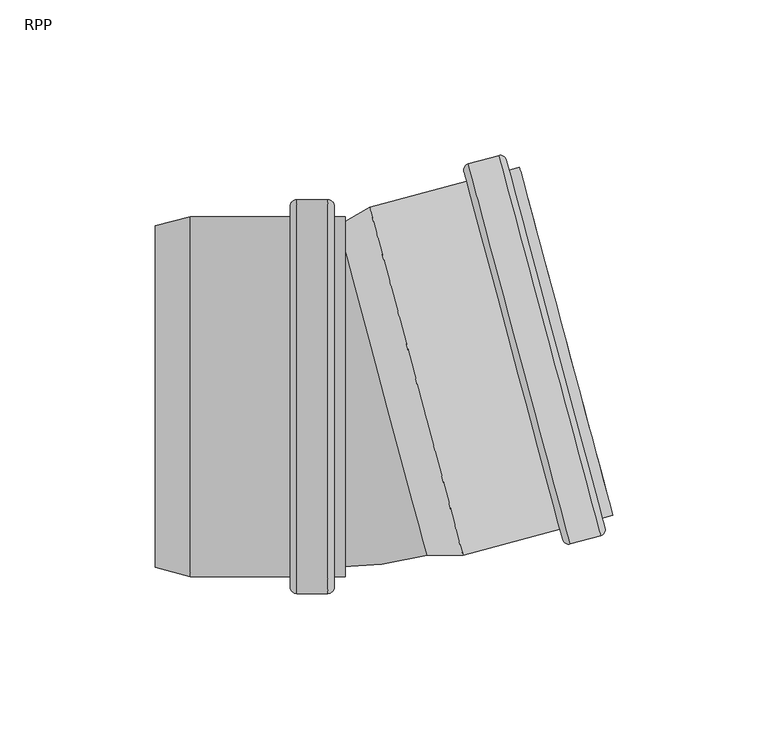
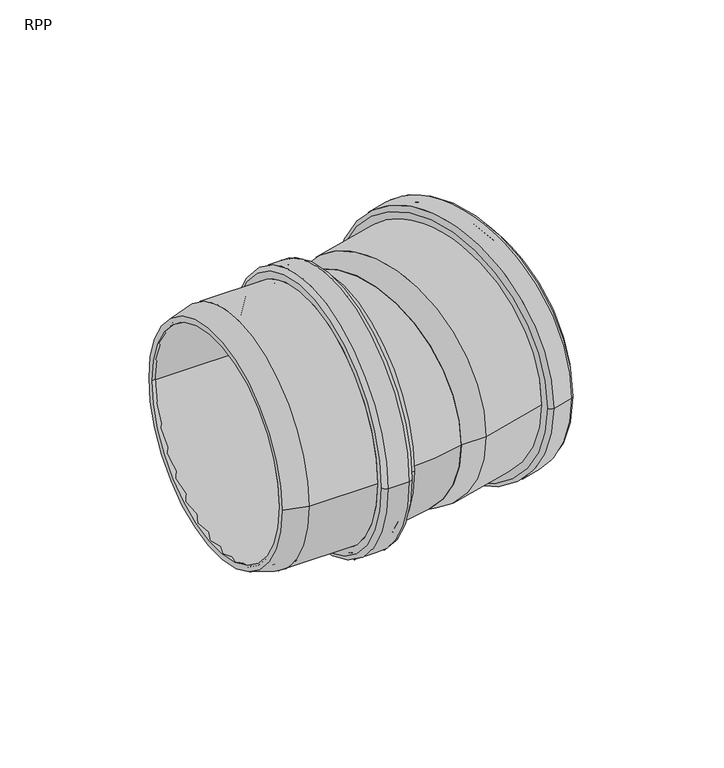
"""IFC4 building model written with IfcOpenShell, lengths in millimetres: pipe fitting geometry, RAUPIANO PLUS Bend : RPP."""

from ifc_helpers import new_model, si_unit, point, frame, origin, place, context, project, spatial, polyline, circle_curve, ellipse_curve, trimmed, source, transform, mapped, element, save
from ifc_brep_helpers import plane_surface, cylinder_surface, revolved_surface, advanced_brep


def rpp_c4f2875f(model_context):
    return source(origin(), model_context, "Body", "AdvancedBrep", [
        advanced_brep(
        [(-19.5674974, -55.3, 0.0), (-19.5674974, 55.3, 0.0), (-54.2158832, 55.3, 0.0), (-54.2158832, -55.3, 0.0), (-19.0674974, -60.7, 0.0), (-19.0674974, 60.7, 0.0), (-19.5674974, 60.2, 0.0), (-19.5674974, -60.2, 0.0), (-11.3674974, -60.7, 0.0), (-11.3674974, 60.7, 0.0), (-10.8674974, -60.2, 0.0), (-10.8674974, 60.2, 0.0), (-4.6674974, -55.3, 0.0), (-4.6674974, 55.3, 0.0), (-10.8674974, 55.3, 0.0), (-10.8674974, -55.3, 0.0), (-8.1674974, -58.0, 0.0), (-8.1674974, 58.0, 0.0), (-4.6674974, 58.0, 0.0), (-4.6674974, -58.0, 0.0), (-10.1674974, -63.4, 0.0), (-10.1674974, 63.4, 0.0), (-8.1674974, 61.4, 0.0), (-8.1674974, -61.4, 0.0), (-20.2674974, -63.4, 0.0), (-20.2674974, 63.4, 0.0), (-22.2674974, -61.4, 0.0), (-22.2674974, 61.4, 0.0), (-54.5713449, -58.0, 0.0), (-54.5713449, 58.0, 0.0), (-22.2674974, 58.0, 0.0), (-22.2674974, -58.0, 0.0), (-65.7674974, -55.0, 0.0), (-65.7674974, 55.0, 0.0), (-65.7674974, 52.2047543, 0.0), (-65.7674974, -52.2047543, 0.0)],
        [
            (0, 1, circle_curve(frame((-19.5674974, 0.0, 0.0), z_axis=(1.0, 0.0, 0.0), x_axis=(0.0, 1.0, 0.0)), 55.3)),
            (1, 2),
            (2, 3, circle_curve(frame((-54.2158832, 0.0, 0.0), z_axis=(-1.0, 0.0, 0.0), x_axis=(0.0, 1.0, 0.0)), 55.3)),
            (3, 0),
            (4, 5, circle_curve(frame((-19.0674974, 0.0, 0.0), z_axis=(1.0, 0.0, 0.0), x_axis=(0.0, 1.0, 0.0)), 60.7)),
            (5, 6, circle_curve(frame((-19.0674974, 60.2, 0.0), z_axis=(0.0, 0.0, 1.0), x_axis=(0.0, -1.0, 0.0)), 0.5)),
            (6, 7, circle_curve(frame((-19.5674974, 0.0, 0.0), z_axis=(-1.0, 0.0, 0.0), x_axis=(0.0, 1.0, 0.0)), 60.2)),
            (7, 4, circle_curve(frame((-19.0674974, -60.2, 0.0), z_axis=(0.0, 0.0, 1.0), x_axis=(0.0, 1.0, 0.0)), 0.5)),
            (8, 9, circle_curve(frame((-11.3674974, 0.0, 0.0), z_axis=(1.0, 0.0, 0.0), x_axis=(0.0, 1.0, 0.0)), 60.7)),
            (9, 5),
            (4, 8),
            (10, 11, circle_curve(frame((-10.8674974, 0.0, 0.0), z_axis=(1.0, 0.0, 0.0), x_axis=(0.0, 1.0, 0.0)), 60.2)),
            (11, 9, circle_curve(frame((-11.3674974, 60.2, 0.0), z_axis=(0.0, 0.0, 1.0), x_axis=(0.0, -1.0, 0.0)), 0.5)),
            (8, 10, circle_curve(frame((-11.3674974, -60.2, 0.0), z_axis=(0.0, 0.0, 1.0), x_axis=(0.0, 1.0, 0.0)), 0.5)),
            (12, 13, circle_curve(frame((-4.6674974, 0.0, 0.0), z_axis=(1.0, 0.0, 0.0), x_axis=(0.0, 1.0, 0.0)), 55.3)),
            (13, 14),
            (14, 15, circle_curve(frame((-10.8674974, 0.0, 0.0), z_axis=(-1.0, 0.0, 0.0), x_axis=(0.0, 1.0, 0.0)), 55.3)),
            (15, 12),
            (16, 17, circle_curve(frame((-8.1674974, 0.0, 0.0), z_axis=(1.0, 0.0, 0.0), x_axis=(0.0, 1.0, 0.0)), 58.0)),
            (17, 18),
            (18, 19, circle_curve(frame((-4.6674974, 0.0, 0.0), z_axis=(-1.0, 0.0, 0.0), x_axis=(0.0, 1.0, 0.0)), 58.0)),
            (19, 16),
            (20, 21, circle_curve(frame((-10.1674974, 0.0, 0.0), z_axis=(1.0, 0.0, 0.0), x_axis=(0.0, 1.0, 0.0)), 63.4)),
            (21, 22, circle_curve(frame((-10.1674974, 61.4, 0.0), z_axis=(0.0, 0.0, -1.0), x_axis=(0.0, -1.0, 0.0)), 2.0)),
            (22, 23, circle_curve(frame((-8.1674974, 0.0, 0.0), z_axis=(-1.0, 0.0, 0.0), x_axis=(0.0, 1.0, 0.0)), 61.4)),
            (23, 20, circle_curve(frame((-10.1674974, -61.4, 0.0), z_axis=(0.0, 0.0, -1.0), x_axis=(0.0, 1.0, 0.0)), 2.0)),
            (24, 25, circle_curve(frame((-20.2674974, 0.0, 0.0), z_axis=(1.0, 0.0, 0.0), x_axis=(0.0, 1.0, 0.0)), 63.4)),
            (25, 21),
            (20, 24),
            (26, 27, circle_curve(frame((-22.2674974, 0.0, 0.0), z_axis=(1.0, 0.0, 0.0), x_axis=(0.0, 1.0, 0.0)), 61.4)),
            (27, 25, circle_curve(frame((-20.2674974, 61.4, 0.0), z_axis=(0.0, 0.0, -1.0), x_axis=(0.0, -1.0, 0.0)), 2.0)),
            (24, 26, circle_curve(frame((-20.2674974, -61.4, 0.0), z_axis=(0.0, 0.0, -1.0), x_axis=(0.0, 1.0, 0.0)), 2.0)),
            (28, 29, circle_curve(frame((-54.5713449, 0.0, 0.0), z_axis=(1.0, 0.0, 0.0), x_axis=(0.0, 1.0, 0.0)), 58.0)),
            (29, 30),
            (30, 31, circle_curve(frame((-22.2674974, 0.0, 0.0), z_axis=(-1.0, 0.0, 0.0), x_axis=(0.0, 1.0, 0.0)), 58.0)),
            (31, 28),
            (32, 33, circle_curve(frame((-65.7674974, 0.0, 0.0), z_axis=(1.0, 0.0, 0.0), x_axis=(0.0, 1.0, 0.0)), 55.0)),
            (33, 29),
            (28, 32),
            (2, 34),
            (34, 35, circle_curve(frame((-65.7674974, 0.0, 0.0), z_axis=(-1.0, 0.0, 0.0), x_axis=(0.0, 1.0, 0.0)), 52.2047543)),
            (35, 3),
            (1, 0, circle_curve(frame((-19.5674974, 0.0, 0.0), z_axis=(1.0, 0.0, 0.0), x_axis=(0.0, -1.0, 0.0)), 55.3)),
            (3, 2, circle_curve(frame((-54.2158832, 0.0, 0.0), z_axis=(-1.0, 0.0, 0.0), x_axis=(0.0, -1.0, 0.0)), 55.3)),
            (6, 7, circle_curve(frame((-19.5674974, 0.0, 0.0), z_axis=(1.0, 0.0, 0.0), x_axis=(0.0, -1.0, 0.0)), 60.2)),
            (5, 4, circle_curve(frame((-19.0674974, 0.0, 0.0), z_axis=(1.0, 0.0, 0.0), x_axis=(0.0, -1.0, 0.0)), 60.7)),
            (9, 8, circle_curve(frame((-11.3674974, 0.0, 0.0), z_axis=(1.0, 0.0, 0.0), x_axis=(0.0, -1.0, 0.0)), 60.7)),
            (11, 10, circle_curve(frame((-10.8674974, 0.0, 0.0), z_axis=(1.0, 0.0, 0.0), x_axis=(0.0, -1.0, 0.0)), 60.2)),
            (14, 15, circle_curve(frame((-10.8674974, 0.0, 0.0), z_axis=(1.0, 0.0, 0.0), x_axis=(0.0, -1.0, 0.0)), 55.3)),
            (13, 12, circle_curve(frame((-4.6674974, 0.0, 0.0), z_axis=(1.0, 0.0, 0.0), x_axis=(0.0, -1.0, 0.0)), 55.3)),
            (18, 19, circle_curve(frame((-4.6674974, 0.0, 0.0), z_axis=(1.0, 0.0, 0.0), x_axis=(0.0, -1.0, 0.0)), 58.0)),
            (17, 16, circle_curve(frame((-8.1674974, 0.0, 0.0), z_axis=(1.0, 0.0, 0.0), x_axis=(0.0, -1.0, 0.0)), 58.0)),
            (22, 23, circle_curve(frame((-8.1674974, 0.0, 0.0), z_axis=(1.0, 0.0, 0.0), x_axis=(0.0, -1.0, 0.0)), 61.4)),
            (21, 20, circle_curve(frame((-10.1674974, 0.0, 0.0), z_axis=(1.0, 0.0, 0.0), x_axis=(0.0, -1.0, 0.0)), 63.4)),
            (25, 24, circle_curve(frame((-20.2674974, 0.0, 0.0), z_axis=(1.0, 0.0, 0.0), x_axis=(0.0, -1.0, 0.0)), 63.4)),
            (27, 26, circle_curve(frame((-22.2674974, 0.0, 0.0), z_axis=(1.0, 0.0, 0.0), x_axis=(0.0, -1.0, 0.0)), 61.4)),
            (30, 31, circle_curve(frame((-22.2674974, 0.0, 0.0), z_axis=(1.0, 0.0, 0.0), x_axis=(0.0, -1.0, 0.0)), 58.0)),
            (29, 28, circle_curve(frame((-54.5713449, 0.0, 0.0), z_axis=(1.0, 0.0, 0.0), x_axis=(0.0, -1.0, 0.0)), 58.0)),
            (33, 32, circle_curve(frame((-65.7674974, 0.0, 0.0), z_axis=(1.0, 0.0, 0.0), x_axis=(0.0, -1.0, 0.0)), 55.0)),
            (34, 35, circle_curve(frame((-65.7674974, 0.0, 0.0), z_axis=(1.0, 0.0, 0.0), x_axis=(0.0, -1.0, 0.0)), 52.2047543)),
        ],
        [
            revolved_surface(polyline([(-54.2158832, 55.3, 0.0), (-19.5674974, 55.3, 0.0)]), (-65.7674974, 0.0, 0.0), (-1.0, 0.0, 0.0)),
            revolved_surface(trimmed(ellipse_curve(frame((-19.0674974, 60.2, 0.0), z_axis=(0.0, 0.0, -1.0), x_axis=(0.0, -1.0, 0.0)), 0.5, 0.5), [point((-19.5674974, 60.2, 0.0))], [point((-19.0674974, 60.7, 0.0))], True, "CARTESIAN"), (-65.7674974, 0.0, 0.0), (-1.0, 0.0, 0.0)),
            revolved_surface(polyline([(-19.0674974, 60.7, 0.0), (-11.367497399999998, 60.7, 0.0)]), (-65.7674974, 0.0, 0.0), (-1.0, 0.0, 0.0)),
            revolved_surface(trimmed(ellipse_curve(frame((-11.3674974, 60.2, 0.0), z_axis=(0.0, 0.0, -1.0), x_axis=(0.0, -1.0, 0.0)), 0.5, 0.5), [point((-11.3674974, 60.7, 0.0))], [point((-10.8674974, 60.2, 0.0))], True, "CARTESIAN"), (-65.7674974, 0.0, 0.0), (-1.0, 0.0, 0.0)),
            revolved_surface(polyline([(-10.867497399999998, 55.3, 0.0), (-4.667497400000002, 55.3, 0.0)]), (-65.7674974, 0.0, 0.0), (-1.0, 0.0, 0.0)),
            cylinder_surface(frame((-65.7674974, 0.0, 0.0), z_axis=(-1.0, 0.0, 0.0), x_axis=(0.0, 1.0, 0.0)), 58.0),
            revolved_surface(trimmed(ellipse_curve(frame((-10.1674974, 61.4, 0.0), z_axis=(0.0, 0.0, 1.0), x_axis=(0.0, -1.0, 0.0)), 2.0, 2.0), [point((-8.1674974, 61.4, 0.0))], [point((-10.1674974, 63.4, 0.0))], True, "CARTESIAN"), (-65.7674974, 0.0, 0.0), (-1.0, 0.0, 0.0)),
            cylinder_surface(frame((-65.7674974, 0.0, 0.0), z_axis=(-1.0, 0.0, 0.0), x_axis=(0.0, 1.0, 0.0)), 63.4),
            revolved_surface(trimmed(ellipse_curve(frame((-20.2674974, 61.4, 0.0), z_axis=(0.0, 0.0, 1.0), x_axis=(0.0, -1.0, 0.0)), 2.0, 2.0), [point((-20.2674974, 63.4, 0.0))], [point((-22.2674974, 61.4, 0.0))], True, "CARTESIAN"), (-65.7674974, 0.0, 0.0), (-1.0, 0.0, 0.0)),
            revolved_surface(polyline([(-54.5713449, 58.0, 0.0), (-65.7674974, 55.0, 0.0)]), (-65.7674974, 0.0, 0.0), (-1.0, 0.0, 0.0)),
            revolved_surface(polyline([(-65.7674974, 52.2047543, 0.0), (-54.2158832, 55.3, 0.0)]), (-65.7674974, 0.0, 0.0), (-1.0, 0.0, 0.0)),
            revolved_surface(polyline([(-54.2158832, -55.3, 0.0), (-19.5674974, -55.3, 0.0)]), (-65.7674974, 0.0, 0.0), (-1.0, 0.0, 0.0)),
            plane_surface(frame((-19.5674974, 0.0, 0.0), z_axis=(1.0, 0.0, 0.0), x_axis=(0.0, -1.0, 0.0))),
            revolved_surface(trimmed(ellipse_curve(frame((-19.0674974, -60.2, 0.0), z_axis=(0.0, 0.0, 1.0), x_axis=(0.0, 1.0, 0.0)), 0.5, 0.5), [point((-19.5674974, -60.2, 0.0))], [point((-19.0674974, -60.7, 0.0))], True, "CARTESIAN"), (-65.7674974, 0.0, 0.0), (-1.0, 0.0, 0.0)),
            revolved_surface(polyline([(-19.0674974, -60.7, 0.0), (-11.367497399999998, -60.7, 0.0)]), (-65.7674974, 0.0, 0.0), (-1.0, 0.0, 0.0)),
            revolved_surface(trimmed(ellipse_curve(frame((-11.3674974, -60.2, 0.0), z_axis=(0.0, 0.0, 1.0), x_axis=(0.0, 1.0, 0.0)), 0.5, 0.5), [point((-11.3674974, -60.7, 0.0))], [point((-10.8674974, -60.2, 0.0))], True, "CARTESIAN"), (-65.7674974, 0.0, 0.0), (-1.0, 0.0, 0.0)),
            plane_surface(frame((-10.8674974, 0.0, 0.0), z_axis=(-1.0, 0.0, 0.0), x_axis=(0.0, -1.0, 0.0))),
            revolved_surface(polyline([(-10.867497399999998, -55.3, 0.0), (-4.667497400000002, -55.3, 0.0)]), (-65.7674974, 0.0, 0.0), (-1.0, 0.0, 0.0)),
            plane_surface(frame((-4.6674974, 0.0, 0.0), z_axis=(1.0, 0.0, 0.0), x_axis=(0.0, -1.0, 0.0))),
            cylinder_surface(frame((-65.7674974, 0.0, 0.0), z_axis=(-1.0, 0.0, 0.0), x_axis=(0.0, -1.0, 0.0)), 58.0),
            plane_surface(frame((-8.1674974, 0.0, 0.0), z_axis=(1.0, 0.0, 0.0), x_axis=(0.0, -1.0, 0.0))),
            revolved_surface(trimmed(ellipse_curve(frame((-10.1674974, -61.4, 0.0), z_axis=(0.0, 0.0, -1.0), x_axis=(0.0, 1.0, 0.0)), 2.0, 2.0), [point((-8.1674974, -61.4, 0.0))], [point((-10.1674974, -63.4, 0.0))], True, "CARTESIAN"), (-65.7674974, 0.0, 0.0), (-1.0, 0.0, 0.0)),
            cylinder_surface(frame((-65.7674974, 0.0, 0.0), z_axis=(-1.0, 0.0, 0.0), x_axis=(0.0, -1.0, 0.0)), 63.4),
            revolved_surface(trimmed(ellipse_curve(frame((-20.2674974, -61.4, 0.0), z_axis=(0.0, 0.0, -1.0), x_axis=(0.0, 1.0, 0.0)), 2.0, 2.0), [point((-20.2674974, -63.4, 0.0))], [point((-22.2674974, -61.4, 0.0))], True, "CARTESIAN"), (-65.7674974, 0.0, 0.0), (-1.0, 0.0, 0.0)),
            plane_surface(frame((-22.2674974, 0.0, 0.0), z_axis=(-1.0, 0.0, 0.0), x_axis=(0.0, -1.0, 0.0))),
            revolved_surface(polyline([(-54.5713449, -58.0, 0.0), (-65.7674974, -55.0, 0.0)]), (-65.7674974, 0.0, 0.0), (-1.0, 0.0, 0.0)),
            plane_surface(frame((-65.7674974, 0.0, 0.0), z_axis=(-1.0, 0.0, 0.0), x_axis=(0.0, -1.0, 0.0))),
            revolved_surface(polyline([(-65.7674974, -52.2047543, 0.0), (-54.2158832, -55.3, 0.0)]), (-65.7674974, 0.0, 0.0), (-1.0, 0.0, 0.0)),
        ],
        [
            (0, [[1, 2, 3, 4]]),
            (1, [[5, 6, 7, 8]]),
            (2, [[9, 10, -5, 11]]),
            (3, [[12, 13, -9, 14]]),
            (4, [[15, 16, 17, 18]]),
            (5, [[19, 20, 21, 22]]),
            (6, [[23, 24, 25, 26]]),
            (7, [[27, 28, -23, 29]]),
            (8, [[30, 31, -27, 32]]),
            (5, [[33, 34, 35, 36]]),
            (9, [[37, 38, -33, 39]]),
            (10, [[-3, 40, 41, 42]]),
            (11, [[43, -4, 44, -2]]),
            (12, [[45, -7], [-43, -1]]),
            (13, [[46, -8, -45, -6]]),
            (14, [[47, -11, -46, -10]]),
            (15, [[48, -14, -47, -13]]),
            (16, [[-48, -12], [49, -17]]),
            (17, [[50, -18, -49, -16]]),
            (18, [[51, -21], [-50, -15]]),
            (19, [[52, -22, -51, -20]]),
            (20, [[53, -25], [-52, -19]]),
            (21, [[54, -26, -53, -24]]),
            (22, [[55, -29, -54, -28]]),
            (23, [[56, -32, -55, -31]]),
            (24, [[-56, -30], [57, -35]]),
            (19, [[58, -36, -57, -34]]),
            (25, [[59, -39, -58, -38]]),
            (26, [[-59, -37], [60, -41]]),
            (27, [[-44, -42, -60, -40]]),
        ],
    ),
        advanced_brep(
        [(21.014411, -48.4155442, 0.0), (-6.0087584, 52.4362967, 0.0), (4.3481356, 58.4158522, 0.0), (32.973522, -48.4155442, 0.0), (33.3289837, -51.1155442, 0.0), (3.3059745, 60.9318517, 0.0), (-6.7322212, 55.1362967, 0.0), (21.7378738, -51.1155442, 0.0), (64.5321044, -42.7546932, 0.0), (34.5090951, 69.2927026, 0.0), (77.6174297, -44.8389822, 0.0), (44.7991748, 77.6404125, 0.0), (35.0433239, 75.0263402, 0.0), (67.8615789, -47.4530546, 0.0), (81.5323989, -38.199478, 0.0), (51.5093897, 73.8479178, 0.0), (48.1286493, 72.9420512, 0.0), (78.1516585, -39.1053447, 0.0), (74.8448474, -37.1961564, 0.0), (46.219461, 69.63524, 0.0), (52.2082011, 71.2399181, 0.0), (80.8335875, -35.5914783, 0.0), (68.3218784, -44.534472, 0.0), (36.9012464, 72.7289233, 0.0), (44.3388752, 74.72183, 0.0), (75.7595073, -42.5415654, 0.0), (37.8159063, 67.3835143, 0.0), (66.4412927, -39.4478821, 0.0), (33.6291104, 72.5768504, 0.0), (65.4120891, -46.038841, 0.0), (79.0316433, -42.3894925, 0.0), (47.2486645, 76.226199, 0.0), (44.9512477, 74.3682766, 0.0), (76.1130607, -41.9291929, 0.0), (67.709506, -44.1809186, 0.0), (36.547693, 72.1165509, 0.0)],
        [
            (0, 1, circle_curve(frame((7.5028263, 2.0103762, 0.0), z_axis=(-0.9659258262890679, -0.25881904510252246, 0.0), x_axis=(-0.25881904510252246, 0.9659258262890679, 0.0)), 52.2047543)),
            (1, 2),
            (2, 3, circle_curve(frame((18.6608288, 5.000154, 0.0), z_axis=(0.9659258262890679, 0.25881904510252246, 0.0), x_axis=(-0.25881904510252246, 0.9659258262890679, 0.0)), 55.3)),
            (3, 0),
            (4, 5, circle_curve(frame((18.3174791, 4.9081537, 0.0), z_axis=(-0.9659258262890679, -0.25881904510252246, 0.0), x_axis=(-0.25881904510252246, 0.9659258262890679, 0.0)), 58.0)),
            (5, 6),
            (6, 7, circle_curve(frame((7.5028263, 2.0103762, 0.0), z_axis=(0.9659258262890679, 0.25881904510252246, 0.0), x_axis=(-0.25881904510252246, 0.9659258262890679, 0.0)), 55.0)),
            (7, 4),
            (8, 9, circle_curve(frame((49.5205997, 13.2690047, 0.0), z_axis=(-0.9659258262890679, -0.25881904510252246, 0.0), x_axis=(-0.25881904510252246, 0.9659258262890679, 0.0)), 58.0)),
            (9, 5),
            (4, 8),
            (10, 11, circle_curve(frame((61.2083022, 16.4007152, 0.0), z_axis=(-0.9659258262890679, -0.25881904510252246, 0.0), x_axis=(-0.25881904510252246, 0.9659258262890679, 0.0)), 63.4)),
            (11, 12),
            (12, 13, circle_curve(frame((51.4524514, 13.7866428, 0.0), z_axis=(0.9659258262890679, 0.25881904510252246, 0.0), x_axis=(-0.25881904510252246, 0.9659258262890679, 0.0)), 63.4)),
            (13, 10),
            (14, 15, circle_curve(frame((66.5208943, 17.8242199, 0.0), z_axis=(-0.9659258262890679, -0.25881904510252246, 0.0), x_axis=(-0.25881904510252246, 0.9659258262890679, 0.0)), 58.0)),
            (15, 16),
            (16, 17, circle_curve(frame((63.1401539, 16.9183532, 0.0), z_axis=(0.9659258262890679, 0.25881904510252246, 0.0), x_axis=(-0.25881904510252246, 0.9659258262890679, 0.0)), 58.0)),
            (17, 14),
            (18, 19, circle_curve(frame((60.5321542, 16.2195418, 0.0), z_axis=(-0.9659258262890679, -0.25881904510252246, 0.0), x_axis=(-0.25881904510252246, 0.9659258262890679, 0.0)), 55.3)),
            (19, 20),
            (20, 21, circle_curve(frame((66.5208943, 17.8242199, 0.0), z_axis=(0.9659258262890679, 0.25881904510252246, 0.0), x_axis=(-0.25881904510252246, 0.9659258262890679, 0.0)), 55.3)),
            (21, 18),
            (22, 23, circle_curve(frame((52.6115624, 14.0972257, 0.0), z_axis=(-0.9659258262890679, -0.25881904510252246, 0.0), x_axis=(-0.25881904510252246, 0.9659258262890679, 0.0)), 60.7)),
            (23, 24),
            (24, 25, circle_curve(frame((60.0491913, 16.0901323, 0.0), z_axis=(0.9659258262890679, 0.25881904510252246, 0.0), x_axis=(-0.25881904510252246, 0.9659258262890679, 0.0)), 60.7)),
            (25, 22),
            (2, 26),
            (26, 27, circle_curve(frame((52.1285995, 13.9678161, 0.0), z_axis=(0.9659258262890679, 0.25881904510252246, 0.0), x_axis=(-0.25881904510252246, 0.9659258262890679, 0.0)), 55.3)),
            (27, 3),
            (1, 0, circle_curve(frame((7.5028263, 2.0103762, 0.0), z_axis=(-0.9659258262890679, -0.25881904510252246, 0.0), x_axis=(0.25881904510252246, -0.9659258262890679, 0.0)), 52.2047543)),
            (3, 2, circle_curve(frame((18.6608288, 5.000154, 0.0), z_axis=(0.9659258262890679, 0.25881904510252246, 0.0), x_axis=(0.25881904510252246, -0.9659258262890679, 0.0)), 55.3)),
            (6, 7, circle_curve(frame((7.5028263, 2.0103762, 0.0), z_axis=(-0.9659258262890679, -0.25881904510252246, 0.0), x_axis=(0.25881904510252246, -0.9659258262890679, 0.0)), 55.0)),
            (5, 4, circle_curve(frame((18.3174791, 4.9081537, 0.0), z_axis=(-0.9659258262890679, -0.25881904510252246, 0.0), x_axis=(0.25881904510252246, -0.9659258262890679, 0.0)), 58.0)),
            (9, 8, circle_curve(frame((49.5205997, 13.2690047, 0.0), z_axis=(-0.9659258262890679, -0.25881904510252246, 0.0), x_axis=(0.25881904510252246, -0.9659258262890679, 0.0)), 58.0)),
            (28, 29, circle_curve(frame((49.5205997, 13.2690047, 0.0), z_axis=(-0.9659258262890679, -0.25881904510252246, 0.0), x_axis=(0.25881904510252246, -0.9659258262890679, 0.0)), 61.4)),
            (29, 28, circle_curve(frame((49.5205997, 13.2690047, 0.0), z_axis=(-0.9659258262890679, -0.25881904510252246, 0.0), x_axis=(-0.25881904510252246, 0.9659258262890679, 0.0)), 61.4)),
            (11, 10, circle_curve(frame((61.2083022, 16.4007152, 0.0), z_axis=(-0.9659258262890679, -0.25881904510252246, 0.0), x_axis=(0.25881904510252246, -0.9659258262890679, 0.0)), 63.4)),
            (13, 12, circle_curve(frame((51.4524514, 13.7866428, 0.0), z_axis=(0.9659258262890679, 0.25881904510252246, 0.0), x_axis=(0.25881904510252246, -0.9659258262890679, 0.0)), 63.4)),
            (30, 31, circle_curve(frame((63.1401539, 16.9183532, 0.0), z_axis=(0.9659258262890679, 0.25881904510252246, 0.0), x_axis=(0.25881904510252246, -0.9659258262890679, 0.0)), 61.4)),
            (31, 30, circle_curve(frame((63.1401539, 16.9183532, 0.0), z_axis=(0.9659258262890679, 0.25881904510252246, 0.0), x_axis=(-0.25881904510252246, 0.9659258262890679, 0.0)), 61.4)),
            (16, 17, circle_curve(frame((63.1401539, 16.9183532, 0.0), z_axis=(-0.9659258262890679, -0.25881904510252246, 0.0), x_axis=(0.25881904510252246, -0.9659258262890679, 0.0)), 58.0)),
            (15, 14, circle_curve(frame((66.5208943, 17.8242199, 0.0), z_axis=(-0.9659258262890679, -0.25881904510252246, 0.0), x_axis=(0.25881904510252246, -0.9659258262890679, 0.0)), 58.0)),
            (20, 21, circle_curve(frame((66.5208943, 17.8242199, 0.0), z_axis=(-0.9659258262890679, -0.25881904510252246, 0.0), x_axis=(0.25881904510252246, -0.9659258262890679, 0.0)), 55.3)),
            (19, 18, circle_curve(frame((60.5321542, 16.2195418, 0.0), z_axis=(-0.9659258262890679, -0.25881904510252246, 0.0), x_axis=(0.25881904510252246, -0.9659258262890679, 0.0)), 55.3)),
            (32, 33, circle_curve(frame((60.5321542, 16.2195418, 0.0), z_axis=(-0.9659258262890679, -0.25881904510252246, 0.0), x_axis=(0.25881904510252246, -0.9659258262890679, 0.0)), 60.2)),
            (33, 32, circle_curve(frame((60.5321542, 16.2195418, 0.0), z_axis=(-0.9659258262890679, -0.25881904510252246, 0.0), x_axis=(-0.25881904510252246, 0.9659258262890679, 0.0)), 60.2)),
            (23, 22, circle_curve(frame((52.6115624, 14.0972257, 0.0), z_axis=(-0.9659258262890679, -0.25881904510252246, 0.0), x_axis=(0.25881904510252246, -0.9659258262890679, 0.0)), 60.7)),
            (25, 24, circle_curve(frame((60.0491913, 16.0901323, 0.0), z_axis=(0.9659258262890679, 0.25881904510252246, 0.0), x_axis=(0.25881904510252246, -0.9659258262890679, 0.0)), 60.7)),
            (34, 35, circle_curve(frame((52.1285995, 13.9678161, 0.0), z_axis=(0.9659258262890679, 0.25881904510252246, 0.0), x_axis=(0.25881904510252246, -0.9659258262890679, 0.0)), 60.2)),
            (35, 34, circle_curve(frame((52.1285995, 13.9678161, 0.0), z_axis=(0.9659258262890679, 0.25881904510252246, 0.0), x_axis=(-0.25881904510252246, 0.9659258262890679, 0.0)), 60.2)),
            (26, 27, circle_curve(frame((52.1285995, 13.9678161, 0.0), z_axis=(-0.9659258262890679, -0.25881904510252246, 0.0), x_axis=(0.25881904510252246, -0.9659258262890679, 0.0)), 55.3)),
            (12, 28, circle_curve(frame((35.560962, 73.0944885, 0.0), z_axis=(0.0, 0.0, 1.0), x_axis=(0.25881904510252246, -0.9659258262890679, 0.0)), 2.0)),
            (29, 13, circle_curve(frame((67.3439408, -45.5212029, 0.0), z_axis=(0.0, 0.0, 1.0), x_axis=(-0.25881904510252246, 0.9659258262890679, 0.0)), 2.0)),
            (31, 11, circle_curve(frame((45.3168129, 75.7085609, 0.0), z_axis=(0.0, 0.0, 1.0), x_axis=(0.25881904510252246, -0.9659258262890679, 0.0)), 2.0)),
            (10, 30, circle_curve(frame((77.0997916, -42.9071306, 0.0), z_axis=(0.0, 0.0, 1.0), x_axis=(-0.25881904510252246, 0.9659258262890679, 0.0)), 2.0)),
            (24, 32, circle_curve(frame((44.4682847, 74.238867, 0.0), z_axis=(0.0, 0.0, -1.0), x_axis=(0.25881904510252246, -0.9659258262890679, 0.0)), 0.5)),
            (33, 25, circle_curve(frame((75.6300978, -42.0586024, 0.0), z_axis=(0.0, 0.0, -1.0), x_axis=(-0.25881904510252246, 0.9659258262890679, 0.0)), 0.5)),
            (35, 23, circle_curve(frame((37.0306559, 72.2459604, 0.0), z_axis=(0.0, 0.0, -1.0), x_axis=(0.25881904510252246, -0.9659258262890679, 0.0)), 0.5)),
            (22, 34, circle_curve(frame((68.1924689, -44.0515091, 0.0), z_axis=(0.0, 0.0, -1.0), x_axis=(-0.25881904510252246, 0.9659258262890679, 0.0)), 0.5)),
        ],
        [
            revolved_surface(polyline([(4.3481356, 58.4158522, 0.0), (-6.0087584, 52.4362967, 0.0)]), (7.5028263, 2.0103762, 0.0), (0.9659258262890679, 0.25881904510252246, 0.0)),
            revolved_surface(polyline([(-6.7322212, 55.1362967, 0.0), (3.3059745, 60.9318517, 0.0)]), (7.5028263, 2.0103762, 0.0), (0.9659258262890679, 0.25881904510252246, 0.0)),
            cylinder_surface(frame((7.5028263, 2.0103762, 0.0), z_axis=(0.9659258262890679, 0.25881904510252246, 0.0), x_axis=(-0.25881904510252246, 0.9659258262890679, 0.0)), 58.0),
            cylinder_surface(frame((7.5028263, 2.0103762, 0.0), z_axis=(0.9659258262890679, 0.25881904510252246, 0.0), x_axis=(-0.25881904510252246, 0.9659258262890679, 0.0)), 63.4),
            revolved_surface(polyline([(52.20820111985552, 71.23991805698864, 0.0), (46.219461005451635, 69.63523997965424, 0.0)]), (7.5028263, 2.0103762, 0.0), (0.9659258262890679, 0.25881904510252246, 0.0)),
            revolved_surface(polyline([(44.33887527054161, 74.72182992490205, 0.0), (36.90124633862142, 72.72892325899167, 0.0)]), (7.5028263, 2.0103762, 0.0), (0.9659258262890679, 0.25881904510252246, 0.0)),
            revolved_surface(polyline([(37.81590631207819, 67.38351428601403, 0.0), (4.348135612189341, 58.41585215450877, 0.0)]), (7.5028263, 2.0103762, 0.0), (0.9659258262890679, 0.25881904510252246, 0.0)),
            revolved_surface(polyline([(32.973522, -48.4155442, 0.0), (21.014411, -48.4155442, 0.0)]), (7.5028263, 2.0103762, 0.0), (0.9659258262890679, 0.25881904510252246, 0.0)),
            plane_surface(frame((7.5028263, 2.0103762, 0.0), z_axis=(-0.9659258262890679, -0.25881904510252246, 0.0), x_axis=(0.25881904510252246, -0.9659258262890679, 0.0))),
            revolved_surface(polyline([(21.7378738, -51.1155442, 0.0), (33.3289837, -51.1155442, 0.0)]), (7.5028263, 2.0103762, 0.0), (0.9659258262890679, 0.25881904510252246, 0.0)),
            cylinder_surface(frame((7.5028263, 2.0103762, 0.0), z_axis=(0.9659258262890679, 0.25881904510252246, 0.0), x_axis=(0.25881904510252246, -0.9659258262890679, 0.0)), 58.0),
            plane_surface(frame((49.5205997, 13.2690047, 0.0), z_axis=(-0.9659258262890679, -0.25881904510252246, 0.0), x_axis=(0.25881904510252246, -0.9659258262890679, 0.0))),
            cylinder_surface(frame((7.5028263, 2.0103762, 0.0), z_axis=(0.9659258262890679, 0.25881904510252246, 0.0), x_axis=(0.25881904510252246, -0.9659258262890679, 0.0)), 63.4),
            plane_surface(frame((63.1401539, 16.9183532, 0.0), z_axis=(0.9659258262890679, 0.25881904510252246, 0.0), x_axis=(0.25881904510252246, -0.9659258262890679, 0.0))),
            plane_surface(frame((66.5208943, 17.8242199, 0.0), z_axis=(0.9659258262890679, 0.25881904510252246, 0.0), x_axis=(0.25881904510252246, -0.9659258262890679, 0.0))),
            revolved_surface(polyline([(80.8335875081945, -35.59147833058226, 0.0), (74.84484739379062, -37.19615640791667, 0.0)]), (7.5028263, 2.0103762, 0.0), (0.9659258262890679, 0.25881904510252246, 0.0)),
            plane_surface(frame((60.5321542, 16.2195418, 0.0), z_axis=(-0.9659258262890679, -0.25881904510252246, 0.0), x_axis=(0.25881904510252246, -0.9659258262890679, 0.0))),
            revolved_surface(polyline([(75.75950734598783, -42.54156538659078, 0.0), (68.32187841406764, -44.534472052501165, 0.0)]), (7.5028263, 2.0103762, 0.0), (0.9659258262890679, 0.25881904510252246, 0.0)),
            plane_surface(frame((52.1285995, 13.9678161, 0.0), z_axis=(0.9659258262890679, 0.25881904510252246, 0.0), x_axis=(0.25881904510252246, -0.9659258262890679, 0.0))),
            revolved_surface(polyline([(66.44129270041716, -39.447882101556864, 0.0), (32.97352200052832, -48.415544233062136, 0.0)]), (7.5028263, 2.0103762, 0.0), (0.9659258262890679, 0.25881904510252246, 0.0)),
            revolved_surface(trimmed(ellipse_curve(frame((35.560962, 73.0944885, 0.0), z_axis=(0.0, 0.0, -1.0), x_axis=(0.25881904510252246, -0.9659258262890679, 0.0)), 2.0, 2.0), [point((33.6291104, 72.5768504, 0.0))], [point((35.0433239, 75.0263402, 0.0))], True, "CARTESIAN"), (7.5028263, 2.0103762, 0.0), (0.9659258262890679, 0.25881904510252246, 0.0)),
            revolved_surface(trimmed(ellipse_curve(frame((45.3168129, 75.7085609, 0.0), z_axis=(0.0, 0.0, -1.0), x_axis=(0.25881904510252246, -0.9659258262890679, 0.0)), 2.0, 2.0), [point((44.7991748, 77.6404125, 0.0))], [point((47.2486645, 76.226199, 0.0))], True, "CARTESIAN"), (7.5028263, 2.0103762, 0.0), (0.9659258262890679, 0.25881904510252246, 0.0)),
            revolved_surface(trimmed(ellipse_curve(frame((44.4682847, 74.238867, 0.0), z_axis=(0.0, 0.0, 1.0), x_axis=(0.25881904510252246, -0.9659258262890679, 0.0)), 0.5, 0.5), [point((44.9512477, 74.3682766, 0.0))], [point((44.3388752, 74.72183, 0.0))], True, "CARTESIAN"), (7.5028263, 2.0103762, 0.0), (0.9659258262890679, 0.25881904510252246, 0.0)),
            revolved_surface(trimmed(ellipse_curve(frame((37.0306559, 72.2459604, 0.0), z_axis=(0.0, 0.0, 1.0), x_axis=(0.25881904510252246, -0.9659258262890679, 0.0)), 0.5, 0.5), [point((36.9012464, 72.7289233, 0.0))], [point((36.547693, 72.1165509, 0.0))], True, "CARTESIAN"), (7.5028263, 2.0103762, 0.0), (0.9659258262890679, 0.25881904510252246, 0.0)),
            revolved_surface(trimmed(ellipse_curve(frame((67.3439408, -45.5212029, 0.0), z_axis=(0.0, 0.0, 1.0), x_axis=(-0.2588190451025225, 0.9659258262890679, 0.0)), 2.0, 2.0), [point((65.4120891, -46.038841, 0.0))], [point((67.8615789, -47.4530546, 0.0))], True, "CARTESIAN"), (7.5028263, 2.0103762, 0.0), (0.9659258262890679, 0.25881904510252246, 0.0)),
            revolved_surface(trimmed(ellipse_curve(frame((77.0997916, -42.9071306, 0.0), z_axis=(0.0, 0.0, 1.0), x_axis=(-0.2588190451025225, 0.9659258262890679, 0.0)), 2.0, 2.0), [point((77.6174297, -44.8389822, 0.0))], [point((79.0316433, -42.3894925, 0.0))], True, "CARTESIAN"), (7.5028263, 2.0103762, 0.0), (0.9659258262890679, 0.25881904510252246, 0.0)),
            revolved_surface(trimmed(ellipse_curve(frame((75.6300978, -42.0586024, 0.0), z_axis=(0.0, 0.0, -1.0), x_axis=(-0.2588190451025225, 0.9659258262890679, 0.0)), 0.5, 0.5), [point((76.1130607, -41.9291929, 0.0))], [point((75.7595073, -42.5415654, 0.0))], True, "CARTESIAN"), (7.5028263, 2.0103762, 0.0), (0.9659258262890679, 0.25881904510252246, 0.0)),
            revolved_surface(trimmed(ellipse_curve(frame((68.1924689, -44.0515091, 0.0), z_axis=(0.0, 0.0, -1.0), x_axis=(-0.2588190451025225, 0.9659258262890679, 0.0)), 0.5, 0.5), [point((68.3218784, -44.534472, 0.0))], [point((67.709506, -44.1809186, 0.0))], True, "CARTESIAN"), (7.5028263, 2.0103762, 0.0), (0.9659258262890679, 0.25881904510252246, 0.0)),
        ],
        [
            (0, [[1, 2, 3, 4]]),
            (1, [[5, 6, 7, 8]]),
            (2, [[9, 10, -5, 11]]),
            (3, [[12, 13, 14, 15]]),
            (2, [[16, 17, 18, 19]]),
            (4, [[20, 21, 22, 23]]),
            (5, [[24, 25, 26, 27]]),
            (6, [[-3, 28, 29, 30]]),
            (7, [[31, -4, 32, -2]]),
            (8, [[33, -7], [-31, -1]]),
            (9, [[34, -8, -33, -6]]),
            (10, [[35, -11, -34, -10]]),
            (11, [[36, 37], [-35, -9]]),
            (12, [[38, -15, 39, -13]]),
            (13, [[40, 41], [42, -18]]),
            (10, [[43, -19, -42, -17]]),
            (14, [[-43, -16], [44, -22]]),
            (15, [[45, -23, -44, -21]]),
            (16, [[46, 47], [-45, -20]]),
            (17, [[48, -27, 49, -25]]),
            (18, [[50, 51], [52, -29]]),
            (19, [[-32, -30, -52, -28]]),
            (20, [[-14, 53, -37, 54]]),
            (21, [[-41, 55, -12, 56]]),
            (22, [[-26, 57, -47, 58]]),
            (23, [[-51, 59, -24, 60]]),
            (24, [[-39, -54, -36, -53]]),
            (25, [[-40, -56, -38, -55]]),
            (26, [[-49, -58, -46, -57]]),
            (27, [[-50, -60, -48, -59]]),
        ],
    ),
        advanced_brep(
        [(-7.7674974, 52.3, 0.0), (-7.7674974, -52.3, 0.0), (-65.7674974, -52.3, 0.0), (-65.7674974, 52.3, 0.0), (-58.6766008, 55.0, 0.0), (-58.6766008, -55.0, 0.0), (-7.7674974, -55.0, 0.0), (-7.7674974, 55.0, 0.0), (-65.7674974, 53.1, 0.0), (-65.7674974, -53.1, 0.0)],
        [
            (0, 1, circle_curve(frame((-7.7674974, 0.0, 0.0), z_axis=(1.0, 0.0, 0.0), x_axis=(0.0, -1.0, 0.0)), 52.3)),
            (1, 2),
            (2, 3, circle_curve(frame((-65.7674974, 0.0, 0.0), z_axis=(-1.0, 0.0, 0.0), x_axis=(0.0, -1.0, 0.0)), 52.3)),
            (3, 0),
            (4, 5, circle_curve(frame((-58.6766008, 0.0, 0.0), z_axis=(1.0, 0.0, 0.0), x_axis=(0.0, -1.0, 0.0)), 55.0)),
            (5, 6),
            (6, 7, circle_curve(frame((-7.7674974, 0.0, 0.0), z_axis=(-1.0, 0.0, 0.0), x_axis=(0.0, -1.0, 0.0)), 55.0)),
            (7, 4),
            (8, 9, circle_curve(frame((-65.7674974, 0.0, 0.0), z_axis=(1.0, 0.0, 0.0), x_axis=(0.0, -1.0, 0.0)), 53.1)),
            (9, 5),
            (4, 8),
            (1, 0, circle_curve(frame((-7.7674974, 0.0, 0.0), z_axis=(1.0, 0.0, 0.0), x_axis=(0.0, 1.0, 0.0)), 52.3)),
            (3, 2, circle_curve(frame((-65.7674974, 0.0, 0.0), z_axis=(-1.0, 0.0, 0.0), x_axis=(0.0, 1.0, 0.0)), 52.3)),
            (6, 7, circle_curve(frame((-7.7674974, 0.0, 0.0), z_axis=(1.0, 0.0, 0.0), x_axis=(0.0, 1.0, 0.0)), 55.0)),
            (5, 4, circle_curve(frame((-58.6766008, 0.0, 0.0), z_axis=(1.0, 0.0, 0.0), x_axis=(0.0, 1.0, 0.0)), 55.0)),
            (9, 8, circle_curve(frame((-65.7674974, 0.0, 0.0), z_axis=(1.0, 0.0, 0.0), x_axis=(0.0, 1.0, 0.0)), 53.1)),
        ],
        [
            revolved_surface(polyline([(-65.7674974, -52.3, 0.0), (-7.7674974, -52.3, 0.0)]), (-7.7674974, 0.0, 0.0), (-1.0, 0.0, 0.0)),
            cylinder_surface(frame((-7.7674974, 0.0, 0.0), z_axis=(-1.0, 0.0, 0.0), x_axis=(0.0, -1.0, 0.0)), 55.0),
            revolved_surface(polyline([(-58.6766008, -55.0, 0.0), (-65.7674974, -53.1, 0.0)]), (-7.7674974, 0.0, 0.0), (-1.0, 0.0, 0.0)),
            revolved_surface(polyline([(-65.7674974, 52.3, 0.0), (-7.7674974, 52.3, 0.0)]), (-7.7674974, 0.0, 0.0), (-1.0, 0.0, 0.0)),
            plane_surface(frame((-7.7674974, 0.0, 0.0), z_axis=(1.0, 0.0, 0.0), x_axis=(0.0, 1.0, 0.0))),
            cylinder_surface(frame((-7.7674974, 0.0, 0.0), z_axis=(-1.0, 0.0, 0.0), x_axis=(0.0, 1.0, 0.0)), 55.0),
            revolved_surface(polyline([(-58.6766008, 55.0, 0.0), (-65.7674974, 53.1, 0.0)]), (-7.7674974, 0.0, 0.0), (-1.0, 0.0, 0.0)),
            plane_surface(frame((-65.7674974, 0.0, 0.0), z_axis=(-1.0, 0.0, 0.0), x_axis=(0.0, 1.0, 0.0))),
        ],
        [
            (0, [[1, 2, 3, 4]]),
            (1, [[5, 6, 7, 8]]),
            (2, [[9, 10, -5, 11]]),
            (3, [[12, -4, 13, -2]]),
            (4, [[14, -7], [-12, -1]]),
            (5, [[15, -8, -14, -6]]),
            (6, [[16, -11, -15, -10]]),
            (7, [[-16, -9], [-13, -3]]),
        ],
    ),
        advanced_brep(
        [(-7.7674974, -55.0, 0.0), (-7.7674974, 55.0, 0.0), (-7.7674974, -52.3, 0.0), (-7.7674974, 52.3, 0.0), (21.7378738, -51.1155442, 0.0), (-6.7322212, 55.1362967, 0.0), (21.0390624, -48.5075445, 0.0), (-6.0334098, 52.528297, 0.0)],
        [
            (0, 1, circle_curve(frame((-7.7674974, 0.0, 0.0), z_axis=(-1.0, 0.0, 0.0), x_axis=(0.0, 1.0, 0.0)), 55.0)),
            (1, 0, circle_curve(frame((-7.7674974, 0.0, 0.0), z_axis=(-1.0, 0.0, 0.0), x_axis=(0.0, 1.0, 0.0)), 55.0)),
            (2, 3, circle_curve(frame((-7.7674974, 0.0, 0.0), z_axis=(1.0, 0.0, 0.0), x_axis=(0.0, 1.0, 0.0)), 52.3)),
            (3, 2, circle_curve(frame((-7.7674974, 0.0, 0.0), z_axis=(1.0, 0.0, 0.0), x_axis=(0.0, 1.0, 0.0)), 52.3)),
            (4, 5, circle_curve(frame((7.5028263, 2.0103762, 0.0), z_axis=(0.9659258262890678, 0.2588190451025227, 0.0), x_axis=(-0.2588190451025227, 0.9659258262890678, 0.0)), 55.0)),
            (5, 4, circle_curve(frame((7.5028263, 2.0103762, 0.0), z_axis=(0.9659258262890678, 0.2588190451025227, 0.0), x_axis=(-0.2588190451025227, 0.9659258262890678, 0.0)), 55.0)),
            (6, 7, circle_curve(frame((7.5028263, 2.0103762, 0.0), z_axis=(-0.9659258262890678, -0.2588190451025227, 0.0), x_axis=(-0.2588190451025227, 0.9659258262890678, 0.0)), 52.3)),
            (7, 6, circle_curve(frame((7.5028263, 2.0103762, 0.0), z_axis=(-0.9659258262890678, -0.2588190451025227, 0.0), x_axis=(-0.2588190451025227, 0.9659258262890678, 0.0)), 52.3)),
            (7, 3, circle_curve(frame((-7.7674974, 59.0, 0.0), z_axis=(0.0, 0.0, -1.0), x_axis=(0.0, -1.0, 0.0)), 6.7)),
            (2, 6, circle_curve(frame((-7.7674974, 59.0, 0.0), z_axis=(0.0, 0.0, 1.0), x_axis=(0.0, -1.0, 0.0)), 111.3)),
            (5, 1, circle_curve(frame((-7.7674974, 59.0, 0.0), z_axis=(0.0, 0.0, -1.0), x_axis=(0.0, -1.0, 0.0)), 4.0)),
            (0, 4, circle_curve(frame((-7.7674974, 59.0, 0.0), z_axis=(0.0, 0.0, 1.0), x_axis=(0.0, -1.0, 0.0)), 114.0)),
        ],
        [
            plane_surface(frame((-7.7674974, 0.0, 0.0), z_axis=(-1.0, 0.0, 0.0), x_axis=(0.0, 0.0, 1.0))),
            plane_surface(frame((7.5028263, 2.0103762, 0.0), z_axis=(0.9659258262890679, 0.25881904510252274, 0.0), x_axis=(0.0, 0.0, 1.0))),
            revolved_surface(trimmed(ellipse_curve(frame((-7.7674974, 0.0, 0.0), z_axis=(1.0, 0.0, 0.0), x_axis=(0.0, 1.0, 0.0)), 52.3, 52.3), [point((-7.7674974, -52.3, 0.0))], [point((-7.7674974, 52.3, 0.0))], True, "CARTESIAN"), (-7.7674974, 59.0, 0.0), (0.0, 0.0, 1.0)),
            revolved_surface(trimmed(ellipse_curve(frame((-7.7674974, 0.0, 0.0), z_axis=(1.0, 0.0, 0.0), x_axis=(0.0, 1.0, 0.0)), 52.3, 52.3), [point((-7.7674974, 52.3, 0.0))], [point((-7.7674974, -52.3, 0.0))], True, "CARTESIAN"), (-7.7674974, 59.0, 0.0), (0.0, 0.0, 1.0)),
            revolved_surface(trimmed(ellipse_curve(frame((-7.7674974, 0.0, 0.0), z_axis=(-1.0, 0.0, 0.0), x_axis=(0.0, 1.0, 0.0)), 55.0, 55.0), [point((-7.7674974, -55.0, 0.0))], [point((-7.7674974, 55.0, 0.0))], True, "CARTESIAN"), (-7.7674974, 59.0, 0.0), (0.0, 0.0, 1.0)),
            revolved_surface(trimmed(ellipse_curve(frame((-7.7674974, 0.0, 0.0), z_axis=(-1.0, 0.0, 0.0), x_axis=(0.0, 1.0, 0.0)), 55.0, 55.0), [point((-7.7674974, 55.0, 0.0))], [point((-7.7674974, -55.0, 0.0))], True, "CARTESIAN"), (-7.7674974, 59.0, 0.0), (0.0, 0.0, 1.0)),
        ],
        [
            (0, [[1, 2], [3, 4]]),
            (1, [[5, 6], [7, 8]]),
            (2, [[9, -3, 10, -8]]),
            (3, [[-10, -4, -9, -7]]),
            (4, [[11, -1, 12, -6]]),
            (5, [[-12, -2, -11, -5]]),
        ],
    ),
    ])


if __name__ == "__main__":
    model = new_model("IFC4")
    model_context = context("Model", 3, world=origin())
    ifc_project = project(units=[si_unit("LENGTHUNIT", "METRE", prefix="MILLI")], contexts=[model_context])
    site = spatial("IfcSite", under=ifc_project)
    building = spatial("IfcBuilding", under=site)
    placement = place(None, origin())
    rpp_shape = rpp_c4f2875f(model_context)
    element("IfcPipeFitting", 1, ObjectType="RAUPIANO PLUS Bend : RPP", at=placement, inside=building, context=model_context, shape_type="MappedRepresentation", body=[
        mapped(rpp_shape, transform((0.0, 0.0, 0.0), x_axis=(1.0, 0.0, 0.0), y_axis=(0.0, 1.0, 0.0), z_axis=(0.0, 0.0, 1.0))),
    ])
    save(model, "model.ifc")
